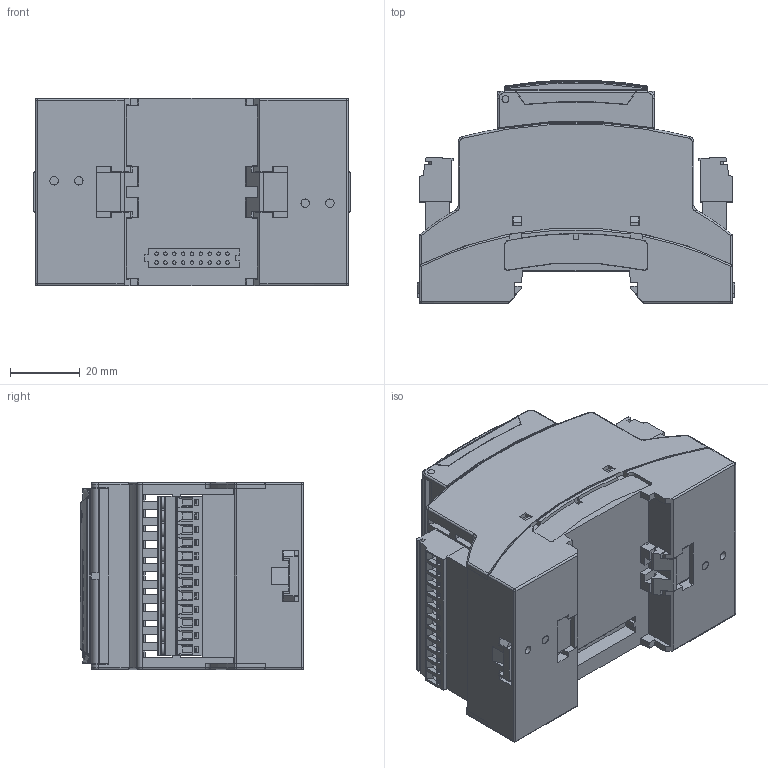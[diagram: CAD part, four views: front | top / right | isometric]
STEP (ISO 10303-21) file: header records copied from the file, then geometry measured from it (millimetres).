
FILE_DESCRIPTION(/* description */ (''),/* implementation_level */ '2;1');
FILE_NAME(/* name */ 'PLE500-5AD_20260618.stp',/* time_stamp */ '2026-06-18T14:59:24+02:00',/* author */ ('ut3'),/* organization */ (''),/* preprocessor_version */ 'ST-DEVELOPER v20.1',/* originating_system */ 'Autodesk Inventor 2026',/* authorisation */ '');
FILE_SCHEMA (('AUTOMOTIVE_DESIGN { 1 0 10303 214 3 1 1 }'));
Products named in the file (14): PLE500-10AD; 1300.20.270_2896403_03_BC-53-6-UT-HBUS-BK_3D; BC_53_6_GEH-UT_HBUS_H.Select__00383604; Fussriegel_14.4_L30_Sperr_H.Select__00370451; 1300.20.269_2896416_01_BC-53-6-OT-U11-KMGY_3D; BC_53_6_GEH-OT_U11_H.Select__00383939; 1300.20.324-MV2; PCB; 1; 1700495993; silicone; 1900.00.168-EV1; Mylar; adesivo
Assembly tree (17 placements, depth 3):
  PLE500-10AD
    1300.20.270_2896403_03_BC-53-6-UT-HBUS-BK_3D
      BC_53_6_GEH-UT_HBUS_H.Select__00383604
      Fussriegel_14.4_L30_Sperr_H.Select__00370451  x2
    1300.20.269_2896416_01_BC-53-6-OT-U11-KMGY_3D
      BC_53_6_GEH-OT_U11_H.Select__00383939
    1300.20.324-MV2
    PCB
    1  x2
    1700495993  x2
    silicone
      1900.00.168-EV1
      Mylar
      adesivo  x2
Bounding box: 91 x 63.94 x 53.6 mm (x, y, z)
Volume: 67978.1 mm3; surface area: 100502 mm2
Topology: 14 solids, 14 shells, 4493 faces, 11957 edges, 7725 vertices
Faces by surface type: plane 3379, cylinder 817, cone 84, bspline 78, torus 75, sphere 60
Full cylindrical faces by diameter (mm): 1 x18, 1.2 x24, 1.397 x24, 1.8 x24, 2 x4, 2.4 x6, 3 x41, 3.5 x1, 4 x2, 7 x1, 8 x2
Entity records: 107081 total; most frequent: CARTESIAN_POINT 27851, ORIENTED_EDGE 16558, DIRECTION 15372, EDGE_CURVE 8279, LINE 6840, VECTOR 6840, VERTEX_POINT 5387, AXIS2_PLACEMENT_3D 4266
